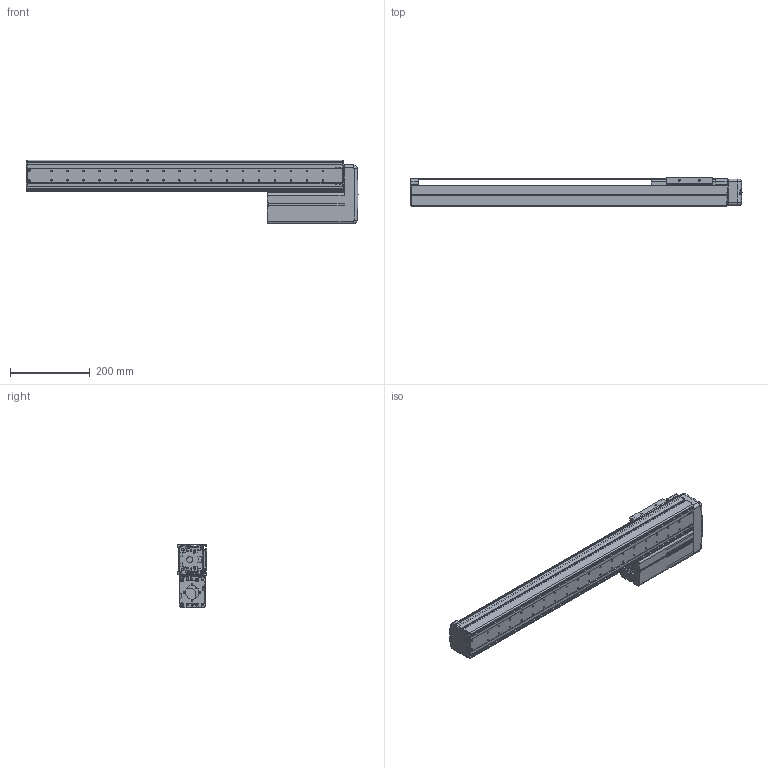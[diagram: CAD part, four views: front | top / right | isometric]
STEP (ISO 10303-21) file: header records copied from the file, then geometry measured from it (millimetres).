
FILE_DESCRIPTION((''),'2;1');
FILE_NAME('BE10E-UL-M_B-60_IGS_PRT','2017-06-17T',(' '),(''),'PRO/ENGINEER BY PARAMETRIC TECHNOLOGY CORPORATION, 2015030','PRO/ENGINEER BY PARAMETRIC TECHNOLOGY CORPORATION, 2015030','');
FILE_SCHEMA(('CONFIG_CONTROL_DESIGN'));
Length unit declared in the file: millimetre
Products named in the file (1): BE10E-UL-M_B-60_IGS_PRT
Bounding box: 832 x 75 x 160 mm (x, y, z)
Volume: 1296428.1 mm3; surface area: 891057.1 mm2
Topology: 2 solids, 113 shells, 1794 faces, 4842 edges, 3148 vertices
Faces by surface type: cylinder 857, plane 709, cone 81, torus 71, sphere 44, bspline 32
Entity records: 58668 total; most frequent: CARTESIAN_POINT 12413, DIRECTION 10044, ORIENTED_EDGE 9190, EDGE_CURVE 4806, AXIS2_PLACEMENT_3D 3755, VERTEX_POINT 3148, VECTOR 2534, LINE 2534
